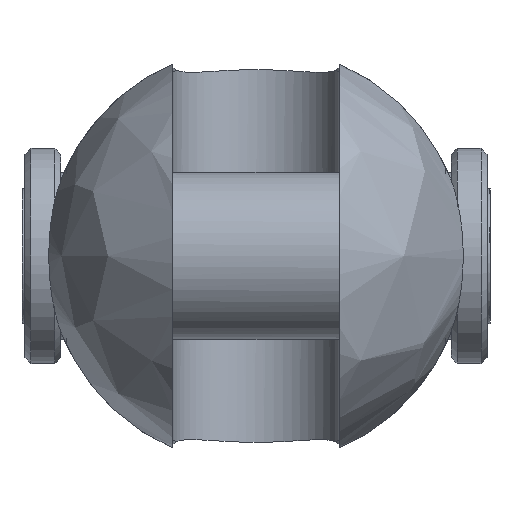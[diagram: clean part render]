
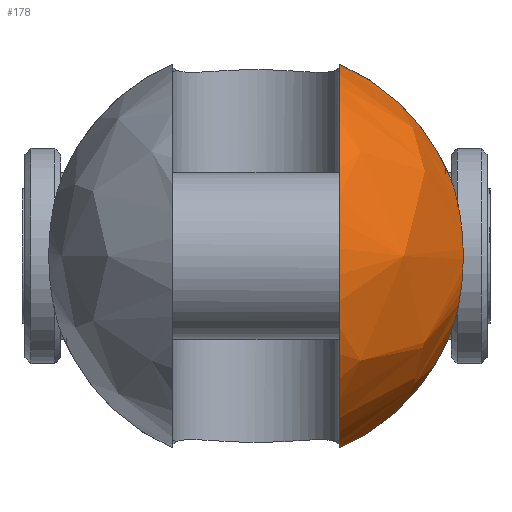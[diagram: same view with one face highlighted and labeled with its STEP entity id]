
A CAD part, left-side view. The second image highlights one B-rep face of the part: STEP entity #178.
In plain terms, the highlighted free-form (B-spline) face has degree [2, 2] with [9, 5] control points.
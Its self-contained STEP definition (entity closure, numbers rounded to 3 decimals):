
#178=ADVANCED_FACE('',(#318),#2404,.T.);
#318=FACE_OUTER_BOUND('',#478,.T.);
#478=EDGE_LOOP('',(#1187,#1188,#1189,#1190));
#1187=ORIENTED_EDGE('',*,*,#1570,.T.);
#1188=ORIENTED_EDGE('',*,*,#1592,.F.);
#1189=ORIENTED_EDGE('',*,*,#1610,.T.);
#1190=ORIENTED_EDGE('',*,*,#1586,.F.);
#1570=EDGE_CURVE('',#2237,#2236,#1972,.T.);
#1586=EDGE_CURVE('',#2237,#2249,#1982,.T.);
#1592=EDGE_CURVE('',#2256,#2236,#1983,.T.);
#1610=EDGE_CURVE('',#2256,#2249,#1778,.T.);
#1778=B_SPLINE_CURVE_WITH_KNOTS('',3,(#6049,#6050,#6051,#6052,#6053,#6054,
#6055,#6056,#6057,#6058,#6059,#6060,#6061,#6062),.UNSPECIFIED.,.F.,.F.,
(4,2,2,2,2,2,4),(-14.735,-13.45,-10.409,
-7.367,-4.326,-1.285,0.),.UNSPECIFIED.);
#1972=(
BOUNDED_CURVE()
B_SPLINE_CURVE(2,(#5866,#5867,#5868,#5869,#5870),.UNSPECIFIED.,.F.,.F.)
B_SPLINE_CURVE_WITH_KNOTS((3,2,3),(-50.388,-25.194,
0.),.UNSPECIFIED.)
CURVE()
GEOMETRIC_REPRESENTATION_ITEM()
RATIONAL_B_SPLINE_CURVE((1.,0.707,1.,0.707,1.))
REPRESENTATION_ITEM('')
);
#1982=(
BOUNDED_CURVE()
B_SPLINE_CURVE(2,(#5944,#5945,#5946),.UNSPECIFIED.,.F.,.F.)
B_SPLINE_CURVE_WITH_KNOTS((3,3),(0.,13.504),.UNSPECIFIED.)
CURVE()
GEOMETRIC_REPRESENTATION_ITEM()
RATIONAL_B_SPLINE_CURVE((1.,0.926,1.))
REPRESENTATION_ITEM('')
);
#1983=(
BOUNDED_CURVE()
B_SPLINE_CURVE(2,(#5969,#5970,#5971),.UNSPECIFIED.,.F.,.F.)
B_SPLINE_CURVE_WITH_KNOTS((3,3),(0.,13.504),.UNSPECIFIED.)
CURVE()
GEOMETRIC_REPRESENTATION_ITEM()
RATIONAL_B_SPLINE_CURVE((1.,0.926,1.))
REPRESENTATION_ITEM('')
);
#2236=VERTEX_POINT('',#5734);
#2237=VERTEX_POINT('',#5735);
#2249=VERTEX_POINT('',#5747);
#2256=VERTEX_POINT('',#5754);
#2404=(
BOUNDED_SURFACE()
B_SPLINE_SURFACE(2,2,((#5448,#5449,#5450,#5451,#5452),(#5453,#5454,#5455,
#5456,#5457),(#5458,#5459,#5460,#5461,#5462),(#5463,#5464,#5465,#5466,#5467),
(#5468,#5469,#5470,#5471,#5472),(#5473,#5474,#5475,#5476,#5477),(#5478,
#5479,#5480,#5481,#5482),(#5483,#5484,#5485,#5486,#5487),(#5488,#5489,#5490,
#5491,#5492)),.UNSPECIFIED.,.T.,.F.,.F.)
B_SPLINE_SURFACE_WITH_KNOTS((3,2,2,2,3),(3,2,3),(0.,1.571,3.142,
4.712,6.283),(-1.571,0.,1.571),
 .UNSPECIFIED.)
GEOMETRIC_REPRESENTATION_ITEM()
RATIONAL_B_SPLINE_SURFACE(((1.,0.707,1.,0.707,1.),
(0.707,0.5,0.707,0.5,0.707),(1.,0.707,
1.,0.707,1.),(0.707,0.5,0.707,0.5,0.707),
(1.,0.707,1.,0.707,1.),(0.707,0.5,0.707,
0.5,0.707),(1.,0.707,1.,0.707,1.),(0.707,
0.5,0.707,0.5,0.707),(1.,0.707,1.,0.707,
1.)))
REPRESENTATION_ITEM('')
SURFACE()
);
#5448=CARTESIAN_POINT('',(-25.,0.,0.));
#5449=CARTESIAN_POINT('',(-25.,17.5,0.));
#5450=CARTESIAN_POINT('',(-7.5,17.5,0.));
#5451=CARTESIAN_POINT('',(10.,17.5,0.));
#5452=CARTESIAN_POINT('',(10.,0.,0.));
#5453=CARTESIAN_POINT('',(-25.,0.,0.));
#5454=CARTESIAN_POINT('',(-25.,17.5,17.5));
#5455=CARTESIAN_POINT('',(-7.5,17.5,17.5));
#5456=CARTESIAN_POINT('',(10.,17.5,17.5));
#5457=CARTESIAN_POINT('',(10.,0.,0.));
#5458=CARTESIAN_POINT('',(-25.,0.,0.));
#5459=CARTESIAN_POINT('',(-25.,0.,17.5));
#5460=CARTESIAN_POINT('',(-7.5,0.,17.5));
#5461=CARTESIAN_POINT('',(10.,0.,17.5));
#5462=CARTESIAN_POINT('',(10.,0.,0.));
#5463=CARTESIAN_POINT('',(-25.,0.,0.));
#5464=CARTESIAN_POINT('',(-25.,-17.5,17.5));
#5465=CARTESIAN_POINT('',(-7.5,-17.5,17.5));
#5466=CARTESIAN_POINT('',(10.,-17.5,17.5));
#5467=CARTESIAN_POINT('',(10.,0.,0.));
#5468=CARTESIAN_POINT('',(-25.,0.,0.));
#5469=CARTESIAN_POINT('',(-25.,-17.5,0.));
#5470=CARTESIAN_POINT('',(-7.5,-17.5,0.));
#5471=CARTESIAN_POINT('',(10.,-17.5,0.));
#5472=CARTESIAN_POINT('',(10.,0.,0.));
#5473=CARTESIAN_POINT('',(-25.,0.,0.));
#5474=CARTESIAN_POINT('',(-25.,-17.5,-17.5));
#5475=CARTESIAN_POINT('',(-7.5,-17.5,-17.5));
#5476=CARTESIAN_POINT('',(10.,-17.5,-17.5));
#5477=CARTESIAN_POINT('',(10.,0.,0.));
#5478=CARTESIAN_POINT('',(-25.,0.,0.));
#5479=CARTESIAN_POINT('',(-25.,0.,-17.5));
#5480=CARTESIAN_POINT('',(-7.5,0.,-17.5));
#5481=CARTESIAN_POINT('',(10.,0.,-17.5));
#5482=CARTESIAN_POINT('',(10.,0.,0.));
#5483=CARTESIAN_POINT('',(-25.,0.,0.));
#5484=CARTESIAN_POINT('',(-25.,17.5,-17.5));
#5485=CARTESIAN_POINT('',(-7.5,17.5,-17.5));
#5486=CARTESIAN_POINT('',(10.,17.5,-17.5));
#5487=CARTESIAN_POINT('',(10.,0.,0.));
#5488=CARTESIAN_POINT('',(-25.,0.,0.));
#5489=CARTESIAN_POINT('',(-25.,17.5,0.));
#5490=CARTESIAN_POINT('',(-7.5,17.5,0.));
#5491=CARTESIAN_POINT('',(10.,17.5,0.));
#5492=CARTESIAN_POINT('',(10.,0.,0.));
#5734=CARTESIAN_POINT('',(-7.5,-7.,-16.039));
#5735=CARTESIAN_POINT('',(-7.5,-7.,16.039));
#5747=CARTESIAN_POINT('',(-7.5,-16.202,6.614));
#5754=CARTESIAN_POINT('',(-7.5,-16.202,-6.614));
#5866=CARTESIAN_POINT('',(-7.5,-7.,16.039));
#5867=CARTESIAN_POINT('',(-23.539,-7.,16.039));
#5868=CARTESIAN_POINT('',(-23.539,-7.,0.));
#5869=CARTESIAN_POINT('',(-23.539,-7.,-16.039));
#5870=CARTESIAN_POINT('',(-7.5,-7.,-16.039));
#5944=CARTESIAN_POINT('',(-7.5,-7.,16.039));
#5945=CARTESIAN_POINT('',(-7.5,-13.515,13.196));
#5946=CARTESIAN_POINT('',(-7.5,-16.202,6.614));
#5969=CARTESIAN_POINT('',(-7.5,-16.202,-6.614));
#5970=CARTESIAN_POINT('',(-7.5,-13.515,-13.196));
#5971=CARTESIAN_POINT('',(-7.5,-7.,-16.039));
#6049=CARTESIAN_POINT('',(-7.5,-16.202,-6.614));
#6050=CARTESIAN_POINT('',(-7.77,-16.327,-6.308));
#6051=CARTESIAN_POINT('',(-8.019,-16.44,-5.988));
#6052=CARTESIAN_POINT('',(-8.772,-16.782,-4.892));
#6053=CARTESIAN_POINT('',(-9.236,-16.987,-3.968));
#6054=CARTESIAN_POINT('',(-9.851,-17.256,-2.005));
#6055=CARTESIAN_POINT('',(-10.,-17.321,-0.966));
#6056=CARTESIAN_POINT('',(-10.,-17.321,0.966));
#6057=CARTESIAN_POINT('',(-9.851,-17.256,2.005));
#6058=CARTESIAN_POINT('',(-9.236,-16.987,3.968));
#6059=CARTESIAN_POINT('',(-8.772,-16.782,4.892));
#6060=CARTESIAN_POINT('',(-8.019,-16.44,5.988));
#6061=CARTESIAN_POINT('',(-7.77,-16.327,6.308));
#6062=CARTESIAN_POINT('',(-7.5,-16.202,6.614));
